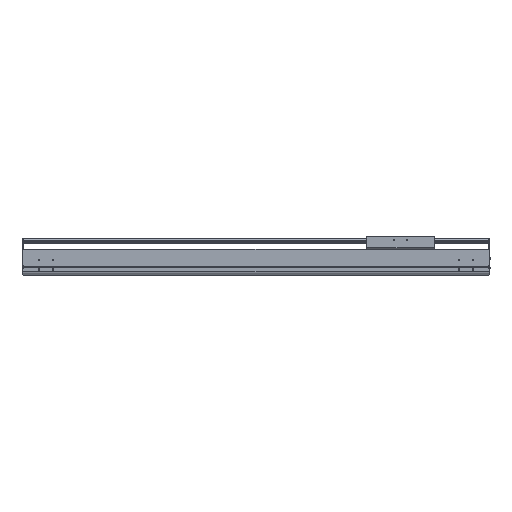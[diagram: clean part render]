
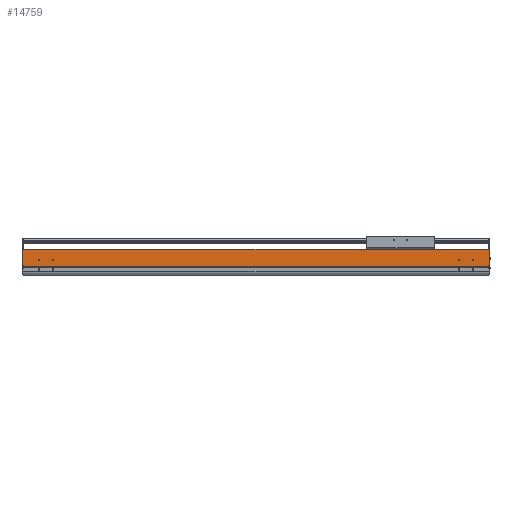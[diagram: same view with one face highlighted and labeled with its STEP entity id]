
A CAD part, top view. The second image highlights one B-rep face of the part: STEP entity #14759.
In plain terms, the highlighted planar face has unit normal (0, 0, 1).
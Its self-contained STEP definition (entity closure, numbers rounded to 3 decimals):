
#1759=DIRECTION('',(0.,-1.,0.));
#1760=VECTOR('',#1759,2.55);
#1761=CARTESIAN_POINT('',(0.,34.65,107.));
#1762=LINE('',#1761,#1760);
#2242=DIRECTION('',(1.,0.,0.));
#2243=VECTOR('',#2242,2.);
#2244=CARTESIAN_POINT('',(-1721.,34.65,107.));
#2245=LINE('',#2244,#2243);
#2246=CARTESIAN_POINT('',(-59.5,54.,107.));
#2247=DIRECTION('',(0.,0.,-1.));
#2248=DIRECTION('',(1.,0.,0.));
#2249=AXIS2_PLACEMENT_3D('',#2246,#2247,#2248);
#2251=CARTESIAN_POINT('',(-59.5,54.,107.));
#2252=DIRECTION('',(0.,0.,-1.));
#2253=DIRECTION('',(-1.,0.,0.));
#2254=AXIS2_PLACEMENT_3D('',#2251,#2252,#2253);
#2256=CARTESIAN_POINT('',(-109.5,54.,107.));
#2257=DIRECTION('',(0.,0.,-1.));
#2258=DIRECTION('',(1.,0.,0.));
#2259=AXIS2_PLACEMENT_3D('',#2256,#2257,#2258);
#2261=CARTESIAN_POINT('',(-109.5,54.,107.));
#2262=DIRECTION('',(0.,0.,-1.));
#2263=DIRECTION('',(-1.,0.,0.));
#2264=AXIS2_PLACEMENT_3D('',#2261,#2262,#2263);
#2266=CARTESIAN_POINT('',(-1659.5,54.,107.));
#2267=DIRECTION('',(0.,0.,-1.));
#2268=DIRECTION('',(1.,0.,0.));
#2269=AXIS2_PLACEMENT_3D('',#2266,#2267,#2268);
#2271=CARTESIAN_POINT('',(-1659.5,54.,107.));
#2272=DIRECTION('',(0.,0.,-1.));
#2273=DIRECTION('',(-1.,0.,0.));
#2274=AXIS2_PLACEMENT_3D('',#2271,#2272,#2273);
#2276=CARTESIAN_POINT('',(-1609.5,54.,107.));
#2277=DIRECTION('',(0.,0.,-1.));
#2278=DIRECTION('',(1.,0.,0.));
#2279=AXIS2_PLACEMENT_3D('',#2276,#2277,#2278);
#2281=CARTESIAN_POINT('',(-1609.5,54.,107.));
#2282=DIRECTION('',(0.,0.,-1.));
#2283=DIRECTION('',(-1.,0.,0.));
#2284=AXIS2_PLACEMENT_3D('',#2281,#2282,#2283);
#2286=DIRECTION('',(0.,-1.,0.));
#2287=VECTOR('',#2286,2.55);
#2288=CARTESIAN_POINT('',(-1719.,34.65,107.));
#2289=LINE('',#2288,#2287);
#2290=DIRECTION('',(0.,-1.,0.));
#2291=VECTOR('',#2290,58.85);
#2292=CARTESIAN_POINT('',(-1721.,93.5,107.));
#2293=LINE('',#2292,#2291);
#2294=DIRECTION('',(0.,1.,0.));
#2295=VECTOR('',#2294,58.85);
#2296=CARTESIAN_POINT('',(2.,34.65,107.));
#2297=LINE('',#2296,#2295);
#2298=DIRECTION('',(1.,0.,0.));
#2299=VECTOR('',#2298,1719.);
#2300=CARTESIAN_POINT('',(-1719.,32.1,107.));
#2301=LINE('',#2300,#2299);
#2406=DIRECTION('',(-1.,0.,0.));
#2407=VECTOR('',#2406,1723.);
#2408=CARTESIAN_POINT('',(2.,93.5,107.));
#2409=LINE('',#2408,#2407);
#8004=DIRECTION('',(1.,0.,0.));
#8005=VECTOR('',#8004,2.);
#8006=CARTESIAN_POINT('',(0.,34.65,107.));
#8007=LINE('',#8006,#8005);
#9409=CARTESIAN_POINT('',(-1721.,34.65,107.));
#9410=VERTEX_POINT('',#9409);
#9411=CARTESIAN_POINT('',(-1721.,93.5,107.));
#9412=VERTEX_POINT('',#9411);
#9641=CARTESIAN_POINT('',(-1719.,32.1,107.));
#9642=VERTEX_POINT('',#9641);
#9965=CARTESIAN_POINT('',(0.,32.1,107.));
#9966=VERTEX_POINT('',#9965);
#9967=CARTESIAN_POINT('',(-57.,54.,107.));
#9968=CARTESIAN_POINT('',(-62.,54.,107.));
#9969=VERTEX_POINT('',#9967);
#9970=VERTEX_POINT('',#9968);
#9971=CARTESIAN_POINT('',(-107.,54.,107.));
#9972=CARTESIAN_POINT('',(-112.,54.,107.));
#9973=VERTEX_POINT('',#9971);
#9974=VERTEX_POINT('',#9972);
#9975=CARTESIAN_POINT('',(-1657.,54.,107.));
#9976=CARTESIAN_POINT('',(-1662.,54.,107.));
#9977=VERTEX_POINT('',#9975);
#9978=VERTEX_POINT('',#9976);
#9979=CARTESIAN_POINT('',(-1607.,54.,107.));
#9980=CARTESIAN_POINT('',(-1612.,54.,107.));
#9981=VERTEX_POINT('',#9979);
#9982=VERTEX_POINT('',#9980);
#10666=CARTESIAN_POINT('',(2.,34.65,107.));
#10667=VERTEX_POINT('',#10666);
#10668=CARTESIAN_POINT('',(2.,93.5,107.));
#10669=VERTEX_POINT('',#10668);
#11120=CARTESIAN_POINT('',(0.,34.65,107.));
#11121=VERTEX_POINT('',#11120);
#11200=CARTESIAN_POINT('',(-1719.,34.65,107.));
#11201=VERTEX_POINT('',#11200);
#14717=CARTESIAN_POINT('',(-859.5,62.8,107.));
#14718=DIRECTION('',(0.,0.,1.));
#14719=DIRECTION('',(0.,-1.,0.));
#14720=AXIS2_PLACEMENT_3D('',#14717,#14718,#14719);
#14721=PLANE('',#14720);
#14722=ORIENTED_EDGE('',*,*,#12203,.F.);
#14723=ORIENTED_EDGE('',*,*,#14712,.F.);
#14724=ORIENTED_EDGE('',*,*,#12832,.F.);
#14726=ORIENTED_EDGE('',*,*,#14725,.F.);
#14727=ORIENTED_EDGE('',*,*,#11940,.F.);
#14729=ORIENTED_EDGE('',*,*,#14728,.F.);
#14730=ORIENTED_EDGE('',*,*,#14320,.T.);
#14732=ORIENTED_EDGE('',*,*,#14731,.F.);
#14733=EDGE_LOOP('',(#14722,#14723,#14724,#14726,#14727,#14729,#14730,#14732));
#14734=FACE_OUTER_BOUND('',#14733,.F.);
#14736=ORIENTED_EDGE('',*,*,#14735,.F.);
#14738=ORIENTED_EDGE('',*,*,#14737,.F.);
#14739=EDGE_LOOP('',(#14736,#14738));
#14740=FACE_BOUND('',#14739,.F.);
#14742=ORIENTED_EDGE('',*,*,#14741,.F.);
#14744=ORIENTED_EDGE('',*,*,#14743,.F.);
#14745=EDGE_LOOP('',(#14742,#14744));
#14746=FACE_BOUND('',#14745,.F.);
#14748=ORIENTED_EDGE('',*,*,#14747,.F.);
#14750=ORIENTED_EDGE('',*,*,#14749,.F.);
#14751=EDGE_LOOP('',(#14748,#14750));
#14752=FACE_BOUND('',#14751,.F.);
#14754=ORIENTED_EDGE('',*,*,#14753,.F.);
#14756=ORIENTED_EDGE('',*,*,#14755,.F.);
#14757=EDGE_LOOP('',(#14754,#14756));
#14758=FACE_BOUND('',#14757,.F.);
#14759=ADVANCED_FACE('',(#14734,#14740,#14746,#14752,#14758),#14721,.T.);
#2250=CIRCLE('',#2249,2.5);
#2255=CIRCLE('',#2254,2.5);
#2260=CIRCLE('',#2259,2.5);
#2265=CIRCLE('',#2264,2.5);
#2270=CIRCLE('',#2269,2.5);
#2275=CIRCLE('',#2274,2.5);
#2280=CIRCLE('',#2279,2.5);
#2285=CIRCLE('',#2284,2.5);
#11940=EDGE_CURVE('',#10667,#10669,#2297,.T.);
#12203=EDGE_CURVE('',#11201,#9642,#2289,.T.);
#12832=EDGE_CURVE('',#9412,#9410,#2293,.T.);
#14320=EDGE_CURVE('',#11121,#9966,#1762,.T.);
#14712=EDGE_CURVE('',#9410,#11201,#2245,.T.);
#14725=EDGE_CURVE('',#10669,#9412,#2409,.T.);
#14728=EDGE_CURVE('',#11121,#10667,#8007,.T.);
#14731=EDGE_CURVE('',#9642,#9966,#2301,.T.);
#14735=EDGE_CURVE('',#9973,#9974,#2260,.T.);
#14737=EDGE_CURVE('',#9974,#9973,#2265,.T.);
#14741=EDGE_CURVE('',#9977,#9978,#2270,.T.);
#14743=EDGE_CURVE('',#9978,#9977,#2275,.T.);
#14747=EDGE_CURVE('',#9981,#9982,#2280,.T.);
#14749=EDGE_CURVE('',#9982,#9981,#2285,.T.);
#14753=EDGE_CURVE('',#9969,#9970,#2250,.T.);
#14755=EDGE_CURVE('',#9970,#9969,#2255,.T.);
